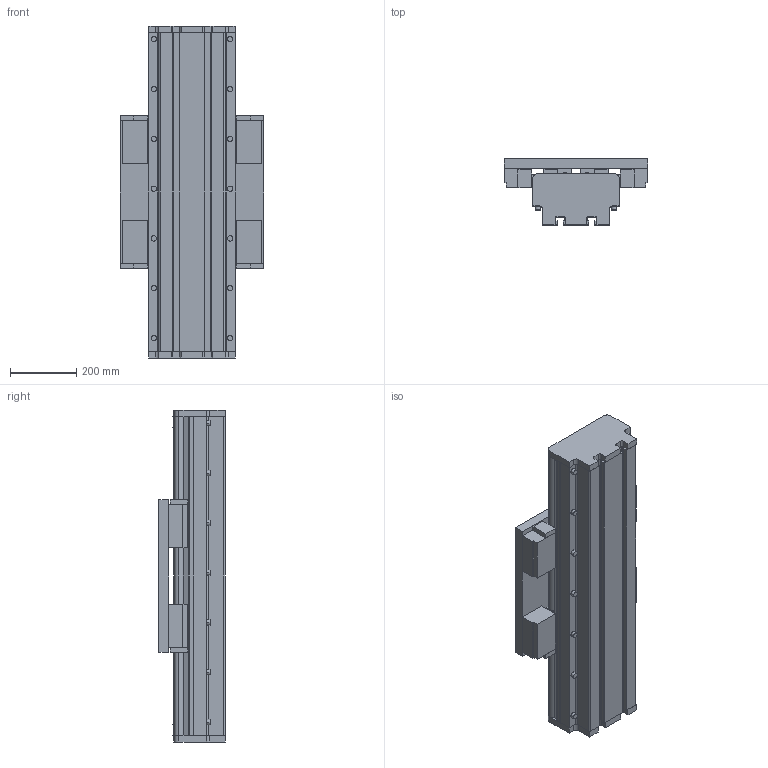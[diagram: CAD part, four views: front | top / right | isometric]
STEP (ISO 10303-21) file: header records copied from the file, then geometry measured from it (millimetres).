
FILE_DESCRIPTION (( 'STEP AP214' ), '1' );
FILE_NAME ('ALLR203.STEP', '2022-06-28T12:09:20', ( '' ), ( '' ), 'SwSTEP 2.0', 'SolidWorks 2020', '' );
FILE_SCHEMA (( 'AUTOMOTIVE_DESIGN' ));
Length unit declared in the file: millimetre
Products named in the file (4): profile^ALLR203; ALLR203; carriage^ALLR203; end plate^ALLR203_bumper
Assembly tree (4 placements, depth 2):
  ALLR203
    profile^ALLR203
    carriage^ALLR203
    end plate^ALLR203_bumper  x2
Bounding box: 432 x 200.5 x 1000 mm (x, y, z)
Volume: 35444648.7 mm3; surface area: 2332135.4 mm2
Topology: 30 solids, 30 shells, 568 faces, 1330 edges, 880 vertices
Faces by surface type: plane 384, cylinder 176, cone 8
Entity records: 15718 total; most frequent: DIRECTION 2652, CARTESIAN_POINT 2591, ORIENTED_EDGE 2460, EDGE_CURVE 1230, VECTOR 890, LINE 890, AXIS2_PLACEMENT_3D 881, VERTEX_POINT 820
